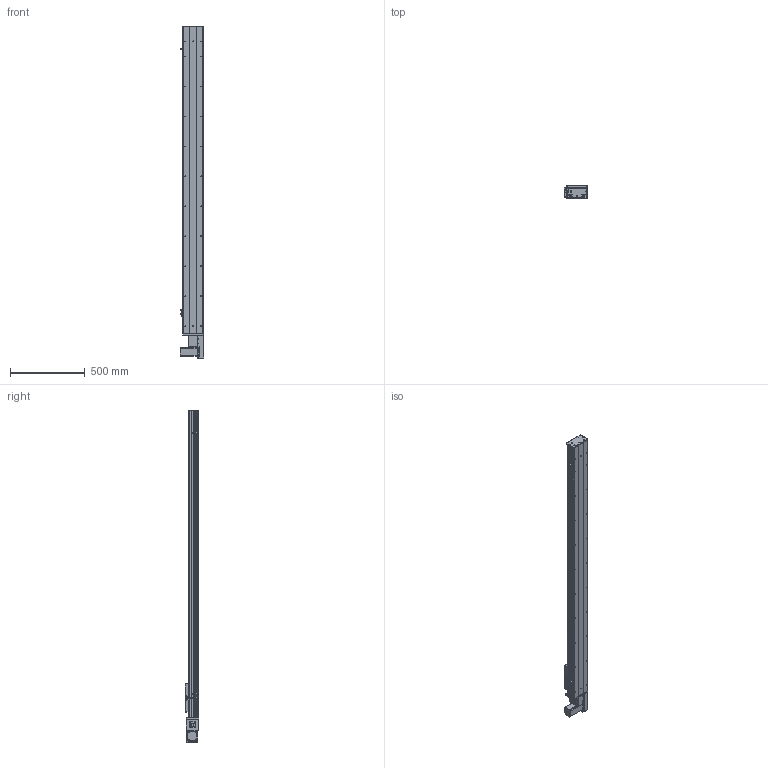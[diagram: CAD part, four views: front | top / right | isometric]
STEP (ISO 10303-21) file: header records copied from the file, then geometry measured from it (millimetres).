
FILE_DESCRIPTION (( 'STEP AP203' ), '1' );
FILE_NAME ('Y135CB-D90-S1750-BL-P400W.STEP', '2020-02-18T01:25:50', ( '微软用户' ), ( '微软中国' ), 'SwSTEP 2.0', 'SolidWorks 2017', '' );
FILE_SCHEMA (( 'CONFIG_CONTROL_DESIGN' ));
Length unit declared in the file: millimetre
Products named in the file (18): C-雄赽釱--; 0B-萇儂楊擘啣; Y135CB-耜裔; Y135CB-D90-S1750-BL-P400W; san松下电机400不带刹车----; 135CB---遴掛极.-; 5CB --掛极耜裔啣-; 35CB---喘謫眊楊擘啣; C-詩湍揤踡え-陔; Y10B--々湍喘謫眊--666; 135CB--詩湍-CE; Y10B-耜蚾蟀諉啣----; Y100-135俋离換覜ん--; Y俋欶BR----; Y135C-陔俋离換覜結え-; 0B-埴倛裔啣; 5C--俋欶; 0B-源倛裔啣
Assembly tree (21 placements, depth 2):
  Y135CB-D90-S1750-BL-P400W
    Y135CB-耜裔
    135CB---遴掛极.-
    35CB---喘謫眊楊擘啣
    Y10B--々湍喘謫眊--666
    Y10B-耜蚾蟀諉啣----
    Y俋欶BR----
    0B-埴倛裔啣
    0B-源倛裔啣
    0B-萇儂楊擘啣
    san松下电机400不带刹车----
    5CB --掛极耜裔啣-  x2
    C-詩湍揤踡え-陔  x2
    135CB--詩湍-CE
    Y100-135俋离換覜ん--  x3
    Y135C-陔俋离換覜結え-
    5C--俋欶
    C-雄赽釱--
Bounding box: 157.5 x 91 x 2214.5 mm (x, y, z)
Volume: 6334928.8 mm3; surface area: 2499243.1 mm2
Topology: 21 solids, 21 shells, 961 faces, 2599 edges, 1722 vertices
Faces by surface type: cylinder 487, plane 458, cone 16
Entity records: 30149 total; most frequent: DIRECTION 5007, CARTESIAN_POINT 4988, ORIENTED_EDGE 4674, EDGE_CURVE 2337, AXIS2_PLACEMENT_3D 1829, VERTEX_POINT 1550, LINE 1349, VECTOR 1349
